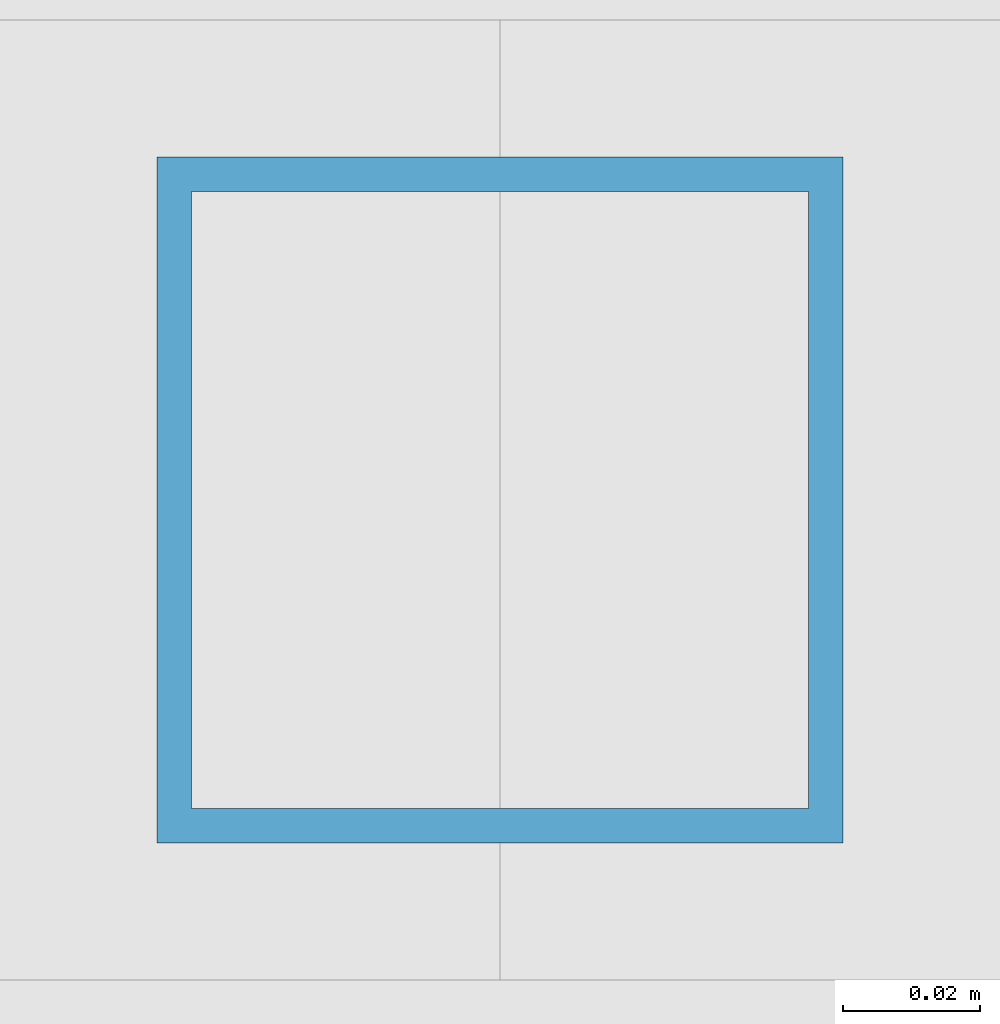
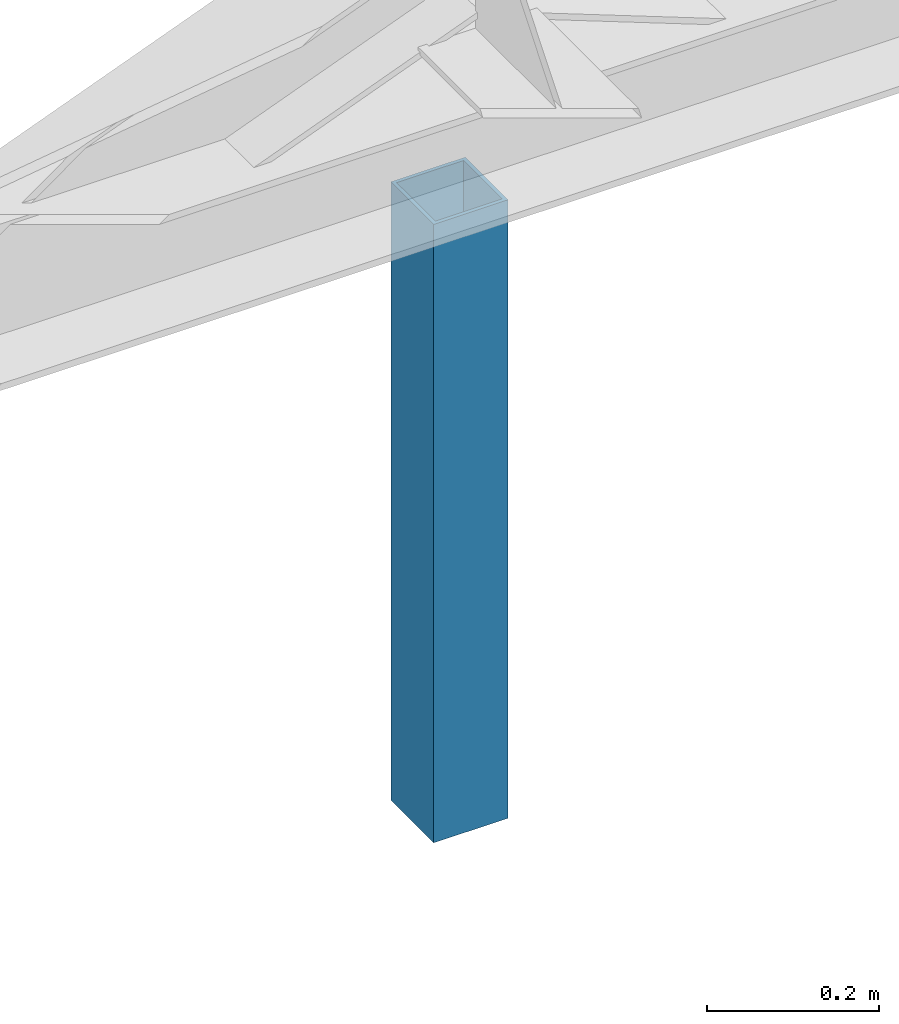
# One storey, part 4 of 10: 1 column.
"""IFC2X3 building model written with IfcOpenShell, lengths in millimetres."""

import ifcopenshell
import ifcopenshell.guid

model = None  # the IFC model being written
_history = None  # IfcOwnerHistory: only IFC2X3 demands one
_inside = {}  # id of a spatial element -> (the spatial element, [elements in it])
_under = {}  # id of a project, library or spatial element -> (it, [spatial elements below it])
_declared = {}  # id of a project -> (the project, [libraries it declares])
_typed = {}  # id of a type object -> (the type object, [elements of that type])
_made_of = {}  # id of a material, layer set ... -> (it, [elements and type objects made of it])


def new_model(schema):
    """Start an empty IFC model of exactly this schema.

    Asked for "IFC4X3", IfcOpenShell would pick the latest addendum, in which some entities
    have other attributes; the version numbers below select the first issue.
    IFC2X3 requires an IfcOwnerHistory on every rooted entity: one is made here for all.
    """
    global model, _history
    if schema == "IFC4X3":
        model = ifcopenshell.file(schema_version=(4, 3, 0, 0))
    else:
        model = ifcopenshell.file(schema=schema)
    _inside.clear()
    _under.clear()
    _declared.clear()
    _typed.clear()
    _made_of.clear()
    _history = None
    if model.schema == "IFC2X3":
        org = make("IfcOrganization", Name="unknown")
        user = make(
            "IfcPersonAndOrganization",
            ThePerson=make("IfcPerson", FamilyName="unknown"),
            TheOrganization=org,
        )
        app = make(
            "IfcApplication",
            ApplicationDeveloper=org,
            Version="unknown",
            ApplicationFullName="unknown",
            ApplicationIdentifier="unknown",
        )
        _history = make(
            "IfcOwnerHistory",
            OwningUser=user,
            OwningApplication=app,
            ChangeAction="ADDED",
            CreationDate=0,
        )
    return model


def make(cls, **values):
    """One entity of the class cls with the attributes given. An attribute that is None is left unset."""
    return model.create_entity(
        cls, **{name: value for name, value in values.items() if value is not None}
    )


def entity(cls, *values):
    """Any entity or typed value of the class cls, its attributes in the order of the schema. None: left unset."""
    e = model.create_entity(cls)
    for i, value in enumerate(values):
        if value is not None:
            e[i] = value
    return e


def rooted(cls, **values):
    """An entity with a GlobalId (a new one), such as an element, a storey or a relation."""
    return make(cls, GlobalId=ifcopenshell.guid.new(), OwnerHistory=_history, **values)


def si_unit(unit_type, name, prefix=None):
    """IfcSIUnit, for example si_unit("LENGTHUNIT", "METRE", prefix="MILLI")."""
    return make("IfcSIUnit", UnitType=unit_type, Prefix=prefix, Name=name)


def converted_unit(unit_type, name, factor, base, dimensions=None, offset=None):
    """IfcConversionBasedUnit, such as the inch: factor (a typed value) times the base unit."""
    return make(
        "IfcConversionBasedUnit"
        if offset is None
        else "IfcConversionBasedUnitWithOffset",
        ConversionOffset=offset,
        Dimensions=None
        if dimensions is None
        else entity("IfcDimensionalExponents", *dimensions),
        UnitType=unit_type,
        Name=name,
        ConversionFactor=make(
            "IfcMeasureWithUnit", ValueComponent=factor, UnitComponent=base
        ),
    )


def derived_unit(unit_type, elements):
    """IfcDerivedUnit: a product of units, each with its exponent."""
    return make(
        "IfcDerivedUnit",
        Elements=[
            make("IfcDerivedUnitElement", Unit=unit, Exponent=power)
            for unit, power in elements
        ],
        UnitType=unit_type,
    )


def assignment(units):
    """IfcUnitAssignment: the units of a project."""
    return None if units is None else make("IfcUnitAssignment", Units=units)


def point(xyz):
    """IfcCartesianPoint."""
    return None if xyz is None else make("IfcCartesianPoint", Coordinates=xyz)


def direction(xyz):
    """IfcDirection."""
    return None if xyz is None else make("IfcDirection", DirectionRatios=xyz)


def frame(location, z_axis=None, x_axis=None):
    """IfcAxis2Placement3D, a coordinate frame: its origin and axes. An axis left out is left unset."""
    return make(
        "IfcAxis2Placement3D",
        Location=point(location),
        Axis=direction(z_axis),
        RefDirection=direction(x_axis),
    )


def origin():
    """The frame at (0, 0, 0) with its axes left unset."""
    return frame((0.0, 0.0, 0.0))


def place(relative_to, where):
    """IfcLocalPlacement: puts the frame where relative to a parent placement (None: the world)."""
    return make(
        "IfcLocalPlacement", PlacementRelTo=relative_to, RelativePlacement=where
    )


def context(
    kind, dimensions, precision=None, world=None, true_north=None, identifier=None
):
    """IfcGeometricRepresentationContext, for example the 3D "Model" context."""
    return make(
        "IfcGeometricRepresentationContext",
        ContextIdentifier=identifier,
        ContextType=kind,
        CoordinateSpaceDimension=dimensions,
        Precision=precision,
        WorldCoordinateSystem=world,
        TrueNorth=true_north,
    )


def subcontext(parent, identifier, kind, view, scale=None):
    """IfcGeometricRepresentationSubContext, for example "Body" below "Model"."""
    return make(
        "IfcGeometricRepresentationSubContext",
        ContextIdentifier=identifier,
        ContextType=kind,
        ParentContext=parent,
        TargetScale=scale,
        TargetView=view,
    )


def project(units=None, contexts=None):
    """IfcProject with its units and contexts."""
    return rooted(
        "IfcProject",
        Name="project",
        RepresentationContexts=contexts,
        UnitsInContext=assignment(units),
    )


def spatial(cls, under=None, at=None, **own):
    """A site, building, storey or space (cls), placed at a placement, below another one or the project."""
    s = rooted(cls, ObjectPlacement=at, **own)
    if under is not None:
        _under.setdefault(under.id(), (under, []))[1].append(s)
    return s


def polyline(points):
    """IfcPolyline through the points."""
    return make("IfcPolyline", Points=[point(p) for p in points])


def outline(outer, holes=None, kind="AREA"):
    """IfcArbitraryClosedProfileDef: a profile drawn as a closed curve; with holes, ...WithVoids."""
    if holes is None:
        return make("IfcArbitraryClosedProfileDef", ProfileType=kind, OuterCurve=outer)
    return make(
        "IfcArbitraryProfileDefWithVoids",
        ProfileType=kind,
        OuterCurve=outer,
        InnerCurves=holes,
    )


def extrude(swept, where, along, depth):
    """IfcExtrudedAreaSolid: the profile swept, set in the frame where, extruded along a direction by depth."""
    return make(
        "IfcExtrudedAreaSolid",
        SweptArea=swept,
        Position=where,
        ExtrudedDirection=direction(along),
        Depth=depth,
    )


def shape(context_of_items, identifier, shape_type, items):
    """IfcShapeRepresentation: the items that make up one representation, for example the "Body"."""
    return make(
        "IfcShapeRepresentation",
        ContextOfItems=context_of_items,
        RepresentationIdentifier=identifier,
        RepresentationType=shape_type,
        Items=items,
    )


def source(mapping_origin, context_of_items, identifier, shape_type, items):
    """IfcRepresentationMap: a shape defined once, which mapped items show again and again."""
    return make(
        "IfcRepresentationMap",
        MappingOrigin=mapping_origin,
        MappedRepresentation=shape(context_of_items, identifier, shape_type, items),
    )


def transform(
    local_origin,
    x_axis=None,
    y_axis=None,
    z_axis=None,
    scale=None,
    scale2=None,
    scale3=None,
    uniform=True,
):
    """IfcCartesianTransformationOperator3D, or its non-uniform kind. x_axis, y_axis, z_axis: its Axis1, 2, 3."""
    if uniform:
        return make(
            "IfcCartesianTransformationOperator3D",
            Axis1=direction(x_axis),
            Axis2=direction(y_axis),
            LocalOrigin=point(local_origin),
            Scale=scale,
            Axis3=direction(z_axis),
        )
    return make(
        "IfcCartesianTransformationOperator3DnonUniform",
        Axis1=direction(x_axis),
        Axis2=direction(y_axis),
        LocalOrigin=point(local_origin),
        Scale=scale,
        Axis3=direction(z_axis),
        Scale2=scale2,
        Scale3=scale3,
    )


def mapped(mapping_source, mapping_target):
    """IfcMappedItem: shows the shape of a source again, moved by a transform."""
    return make(
        "IfcMappedItem", MappingSource=mapping_source, MappingTarget=mapping_target
    )


def material(Name=None, Category=None):
    """IfcMaterial."""
    return make("IfcMaterial", Name=Name, Category=Category)


def made_of(thing, what):
    """Note that an element or type object is made of a material, layer set ...; save() writes the relation."""
    if what is not None:
        _made_of.setdefault(what.id(), (what, []))[1].append(thing)
    return thing


def type_object(cls, material=None, **own):
    """A type object (cls), such as IfcWallType, which elements share."""
    return made_of(rooted(cls, **own), material)


def type_shapes(of_type, sources):
    """Give a type object the sources (RepresentationMaps) that its elements show as mapped items."""
    of_type.RepresentationMaps = sources


def element(
    cls,
    number,
    at=None,
    inside=None,
    cuts=None,
    type_object=None,
    material=None,
    context=None,
    identifier="Body",
    shape_type=None,
    held_by="IfcProductDefinitionShape",
    body=None,
    shapes=None,
    **own,
):
    """One element of the class cls, such as IfcWall. Its Tag is "e" and its number.

    at: its placement. inside: the storey or other place that contains it. cuts: it is an
    opening in that element (IfcRelVoidsElement). A single representation is given by context,
    identifier, shape_type and body (its items); several are given by shapes. held_by: the class
    of the entity that holds the representations. save() writes the other relations.
    """
    e = rooted(cls, Tag="e%d" % number, ObjectPlacement=at, **own)
    if body is not None:
        shapes = [shape(context, identifier, shape_type, body)]
    if shapes is not None:
        e.Representation = make(held_by, Representations=shapes)
    if inside is not None:
        _inside.setdefault(inside.id(), (inside, []))[1].append(e)
    if cuts is not None:
        rooted(
            "IfcRelVoidsElement", RelatingBuildingElement=cuts, RelatedOpeningElement=e
        )
    if type_object is not None:
        _typed.setdefault(type_object.id(), (type_object, []))[1].append(e)
    return made_of(e, material)


def aggregate(whole, parts):
    """IfcRelAggregates: a whole, such as a stair, and the parts it consists of."""
    return rooted("IfcRelAggregates", RelatingObject=whole, RelatedObjects=parts)


def save(model, path):
    """Write the relations noted so far, then the file.

    IfcRelAggregates (storeys below a building ...), IfcRelContainedInSpatialStructure (elements
    in a storey), IfcRelDefinesByType, IfcRelAssociatesMaterial and IfcRelDeclares: one each for
    every whole, place, type object, material and project.
    """
    for whole, parts in _under.values():
        aggregate(whole, parts)
    for where, things in _inside.values():
        rooted(
            "IfcRelContainedInSpatialStructure",
            RelatedElements=things,
            RelatingStructure=where,
        )
    for kind, things in _typed.values():
        rooted("IfcRelDefinesByType", RelatedObjects=things, RelatingType=kind)
    for what, things in _made_of.values():
        rooted("IfcRelAssociatesMaterial", RelatedObjects=things, RelatingMaterial=what)
    for by, libraries in _declared.values():
        rooted("IfcRelDeclares", RelatingContext=by, RelatedDefinitions=libraries)
    model.write(path)


model = new_model("IFC2X3")

# Units and contexts
model_context = context("Model", 3, precision=0.01, world=origin(), true_north=direction((6.123031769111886e-17, 1.0)))
body_context = subcontext(model_context, "Body", "Model", "MODEL_VIEW")
ifc_project = project(units=[si_unit("LENGTHUNIT", "METRE", prefix="MILLI"), si_unit("AREAUNIT", "SQUARE_METRE", prefix="MILLI"), si_unit("VOLUMEUNIT", "CUBIC_METRE"), converted_unit("PLANEANGLEUNIT", "DEGREE", entity("IfcPlaneAngleMeasure", 0.017453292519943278), si_unit("PLANEANGLEUNIT", "RADIAN"), dimensions=[0, 0, 0, 0, 0, 0, 0]), si_unit("MASSUNIT", "GRAM", prefix="KILO"), derived_unit("MASSDENSITYUNIT", [(si_unit("MASSUNIT", "GRAM", prefix="KILO"), 1), (si_unit("LENGTHUNIT", "METRE"), -3)]), derived_unit("IONCONCENTRATIONUNIT", [(si_unit("MASSUNIT", "GRAM", prefix="KILO"), 1), (si_unit("LENGTHUNIT", "METRE"), -3)]), derived_unit("MOMENTOFINERTIAUNIT", [(si_unit("LENGTHUNIT", "METRE"), 4)]), si_unit("TIMEUNIT", "SECOND"), si_unit("FREQUENCYUNIT", "HERTZ"), si_unit("THERMODYNAMICTEMPERATUREUNIT", "DEGREE_CELSIUS"), derived_unit("THERMALTRANSMITTANCEUNIT", [(si_unit("MASSUNIT", "GRAM", prefix="KILO"), 1), (si_unit("THERMODYNAMICTEMPERATUREUNIT", "KELVIN"), -1), (si_unit("TIMEUNIT", "SECOND"), -3)]), derived_unit("THERMALCONDUCTANCEUNIT", [(si_unit("MASSUNIT", "GRAM", prefix="KILO"), 1), (si_unit("THERMODYNAMICTEMPERATUREUNIT", "KELVIN"), -1), (si_unit("TIMEUNIT", "SECOND"), -3), (si_unit("LENGTHUNIT", "METRE"), 1)]), derived_unit("VOLUMETRICFLOWRATEUNIT", [(si_unit("LENGTHUNIT", "METRE", prefix="DECI"), 3), (si_unit("TIMEUNIT", "SECOND"), -1)]), derived_unit("MASSFLOWRATEUNIT", [(si_unit("MASSUNIT", "GRAM", prefix="KILO"), 1), (si_unit("TIMEUNIT", "SECOND"), -1)]), derived_unit("ROTATIONALFREQUENCYUNIT", [(si_unit("TIMEUNIT", "SECOND"), -1)]), si_unit("ELECTRICCURRENTUNIT", "AMPERE"), si_unit("ELECTRICVOLTAGEUNIT", "VOLT"), si_unit("POWERUNIT", "WATT"), si_unit("FORCEUNIT", "NEWTON", prefix="KILO"), si_unit("ILLUMINANCEUNIT", "LUX"), si_unit("LUMINOUSFLUXUNIT", "LUMEN"), si_unit("LUMINOUSINTENSITYUNIT", "CANDELA"), si_unit("ENERGYUNIT", "JOULE"), derived_unit("USERDEFINED", [(si_unit("MASSUNIT", "GRAM", prefix="KILO"), -1), (si_unit("LENGTHUNIT", "METRE"), -2), (si_unit("TIMEUNIT", "SECOND"), 3), (si_unit("LUMINOUSFLUXUNIT", "LUMEN"), 1)]), derived_unit("USERDEFINED", [(si_unit("MASSUNIT", "GRAM", prefix="KILO"), 1), (si_unit("TIMEUNIT", "SECOND"), -3), (si_unit("LENGTHUNIT", "METRE"), 3), (si_unit("ELECTRICCURRENTUNIT", "AMPERE"), -2)]), derived_unit("SOUNDPOWERUNIT", [(si_unit("MASSUNIT", "GRAM", prefix="KILO"), 1), (si_unit("TIMEUNIT", "SECOND"), -3), (si_unit("LENGTHUNIT", "METRE"), 2)]), derived_unit("SOUNDPRESSUREUNIT", [(si_unit("MASSUNIT", "GRAM", prefix="KILO"), 1), (si_unit("LENGTHUNIT", "METRE"), -1), (si_unit("TIMEUNIT", "SECOND"), -2)]), derived_unit("LINEARVELOCITYUNIT", [(si_unit("LENGTHUNIT", "METRE"), 1), (si_unit("TIMEUNIT", "SECOND"), -1)]), si_unit("PRESSUREUNIT", "PASCAL"), derived_unit("USERDEFINED", [(si_unit("MASSUNIT", "GRAM", prefix="KILO"), 1), (si_unit("LENGTHUNIT", "METRE"), -2), (si_unit("TIMEUNIT", "SECOND"), -2)]), derived_unit("LINEARFORCEUNIT", [(si_unit("MASSUNIT", "GRAM", prefix="KILO"), 1), (si_unit("TIMEUNIT", "SECOND"), -2)]), derived_unit("PLANARFORCEUNIT", [(si_unit("MASSUNIT", "GRAM", prefix="KILO"), 1), (si_unit("LENGTHUNIT", "METRE"), -1), (si_unit("TIMEUNIT", "SECOND"), -2)]), derived_unit("SPECIFICHEATCAPACITYUNIT", [(si_unit("THERMODYNAMICTEMPERATUREUNIT", "KELVIN"), -1), (si_unit("LENGTHUNIT", "METRE"), 2), (si_unit("TIMEUNIT", "SECOND"), -2)]), derived_unit("HEATFLUXDENSITYUNIT", [(si_unit("MASSUNIT", "GRAM", prefix="KILO"), 1), (si_unit("TIMEUNIT", "SECOND"), -3)]), derived_unit("HEATINGVALUEUNIT", [(si_unit("LENGTHUNIT", "METRE"), 2), (si_unit("TIMEUNIT", "SECOND"), -2)]), derived_unit("VAPORPERMEABILITYUNIT", [(si_unit("LENGTHUNIT", "METRE"), -1), (si_unit("TIMEUNIT", "SECOND"), 1)]), derived_unit("DYNAMICVISCOSITYUNIT", [(si_unit("MASSUNIT", "GRAM", prefix="KILO"), 1), (si_unit("TIMEUNIT", "SECOND"), -1), (si_unit("LENGTHUNIT", "METRE"), -1)]), derived_unit("THERMALEXPANSIONCOEFFICIENTUNIT", [(si_unit("THERMODYNAMICTEMPERATUREUNIT", "KELVIN"), -1)]), derived_unit("MODULUSOFELASTICITYUNIT", [(si_unit("MASSUNIT", "GRAM", prefix="KILO"), 1), (si_unit("LENGTHUNIT", "METRE"), -1), (si_unit("TIMEUNIT", "SECOND"), -2)]), derived_unit("ISOTHERMALMOISTURECAPACITYUNIT", [(si_unit("MASSUNIT", "GRAM", prefix="KILO"), -1), (si_unit("LENGTHUNIT", "METRE"), 3)]), derived_unit("MOISTUREDIFFUSIVITYUNIT", [(si_unit("TIMEUNIT", "SECOND"), -1), (si_unit("LENGTHUNIT", "METRE"), 2)]), derived_unit("MASSPERLENGTHUNIT", [(si_unit("MASSUNIT", "GRAM", prefix="KILO"), 1), (si_unit("LENGTHUNIT", "METRE"), -1)]), derived_unit("THERMALRESISTANCEUNIT", [(si_unit("MASSUNIT", "GRAM", prefix="KILO"), -1), (si_unit("TIMEUNIT", "SECOND"), 3), (si_unit("THERMODYNAMICTEMPERATUREUNIT", "KELVIN"), 1)]), derived_unit("ACCELERATIONUNIT", [(si_unit("LENGTHUNIT", "METRE"), 1), (si_unit("TIMEUNIT", "SECOND"), -2)]), derived_unit("ANGULARVELOCITYUNIT", [(si_unit("TIMEUNIT", "SECOND"), -1), (si_unit("PLANEANGLEUNIT", "RADIAN"), 1)]), derived_unit("LINEARSTIFFNESSUNIT", [(si_unit("MASSUNIT", "GRAM", prefix="KILO"), 1), (si_unit("TIMEUNIT", "SECOND"), -2)]), derived_unit("WARPINGCONSTANTUNIT", [(si_unit("LENGTHUNIT", "METRE"), 6)]), derived_unit("LINEARMOMENTUNIT", [(si_unit("MASSUNIT", "GRAM", prefix="KILO"), 1), (si_unit("LENGTHUNIT", "METRE"), 1), (si_unit("TIMEUNIT", "SECOND"), -2)]), derived_unit("TORQUEUNIT", [(si_unit("MASSUNIT", "GRAM", prefix="KILO"), 1), (si_unit("LENGTHUNIT", "METRE"), 2), (si_unit("TIMEUNIT", "SECOND"), -2)])], contexts=[model_context])

# Site, building, storey
site_placement = place(None, origin())
site = spatial("IfcSite", under=ifc_project, at=site_placement, Name="Default", CompositionType="ELEMENT")
building_placement = place(site_placement, origin())
building = spatial("IfcBuilding", under=site, at=building_placement, CompositionType="ELEMENT")
storey_placement = place(building_placement, frame((0.0, 0.0, 11700.0)))
storey = spatial("IfcBuildingStorey", under=building, at=storey_placement, Name="V4 BK metselwerk", CompositionType="ELEMENT", Elevation=11699.999999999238)

# Column
ifc_material = material(Name="Metal - Steel - S275 J0H (standaard-kokers/buizen)")
column_type = type_object("IfcColumnType", Name="btk_staal - Koker:K100x100x5.0", PredefinedType="COLUMN", material=ifc_material)
shared_shape = source(origin(), body_context, "Body", "SweptSolid", [
    extrude(outline(polyline([(-50.0, -50.0), (50.0, -50.0), (50.0, 50.0), (-50.0, 50.0), (-50.0, -50.0)]), holes=[polyline([(-45.0, -45.0), (-45.0, 45.0), (45.0, 45.0), (45.0, -45.0), (-45.0, -45.0)])]), frame((25724.079892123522, 25344.605013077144, 10830.0), z_axis=(0.0, 0.0, 1.0), x_axis=(0.0, -1.0, 0.0)), (0.0, 0.0, 1.0), 879.0000000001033),
])
type_shapes(column_type, [shared_shape])
column_placement = place(storey_placement, frame((0.0, 0.0, -11700.0)))
element("IfcColumn", 1, at=column_placement, inside=storey, type_object=column_type, material=ifc_material, Name="btk_staal - Koker:K100x100x5.0", ObjectType="btk_staal - Koker:K100x100x5.0", context=body_context, shape_type="MappedRepresentation", body=[
    mapped(shared_shape, transform((0.0, 0.0, 0.0), scale=1.0)),
])

save(model, "model.ifc")
